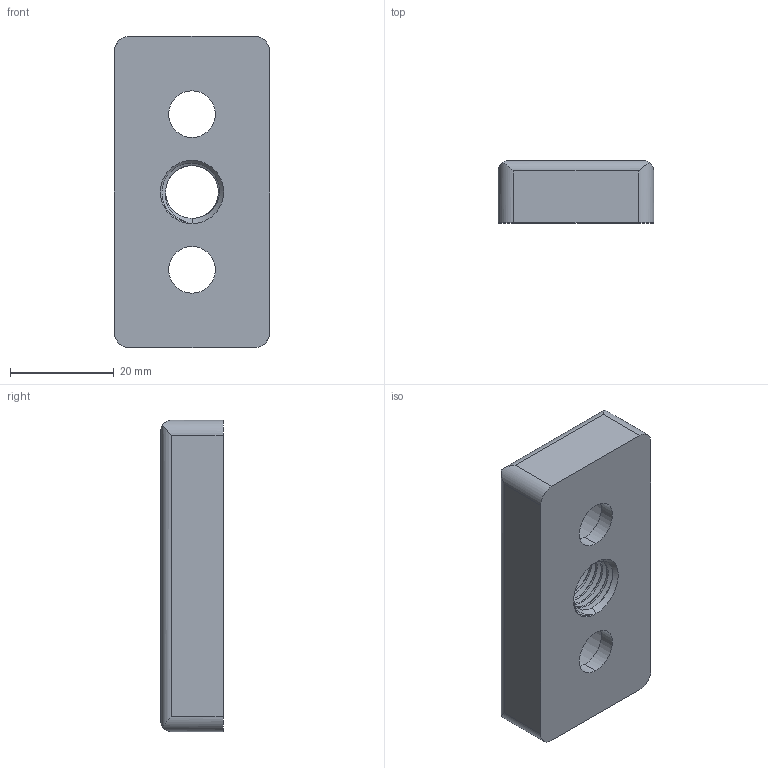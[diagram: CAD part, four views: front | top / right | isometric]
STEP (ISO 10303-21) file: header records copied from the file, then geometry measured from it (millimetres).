
FILE_DESCRIPTION (( 'STEP AP203' ), '1' );
FILE_NAME ('503025_Transport- u. Fußplatte ZN 30x60 Nut8 M12 vz.step', '2022-08-02T06:32:14', ( '' ), ( '' ), 'SwSTEP 2.0', 'SolidWorks 2021', '' );
FILE_SCHEMA (( 'CONFIG_CONTROL_DESIGN' ));
Length unit declared in the file: millimetre
Products named in the file (1): 503025_Transport- u. Fußplatte ZN 30x60 Nut8 M12 vz
Bounding box: 30 x 12 x 60 mm (x, y, z)
Volume: 16658.9 mm3; surface area: 6734 mm2
Topology: 1 solids, 1 shells, 45 faces, 122 edges, 81 vertices
Faces by surface type: cylinder 30, plane 8, cone 4, bspline 3
Entity records: 4549 total; most frequent: CARTESIAN_POINT 3429, ORIENTED_EDGE 244, DIRECTION 183, EDGE_CURVE 122, VERTEX_POINT 81, AXIS2_PLACEMENT_3D 69, EDGE_LOOP 53, VECTOR 45
